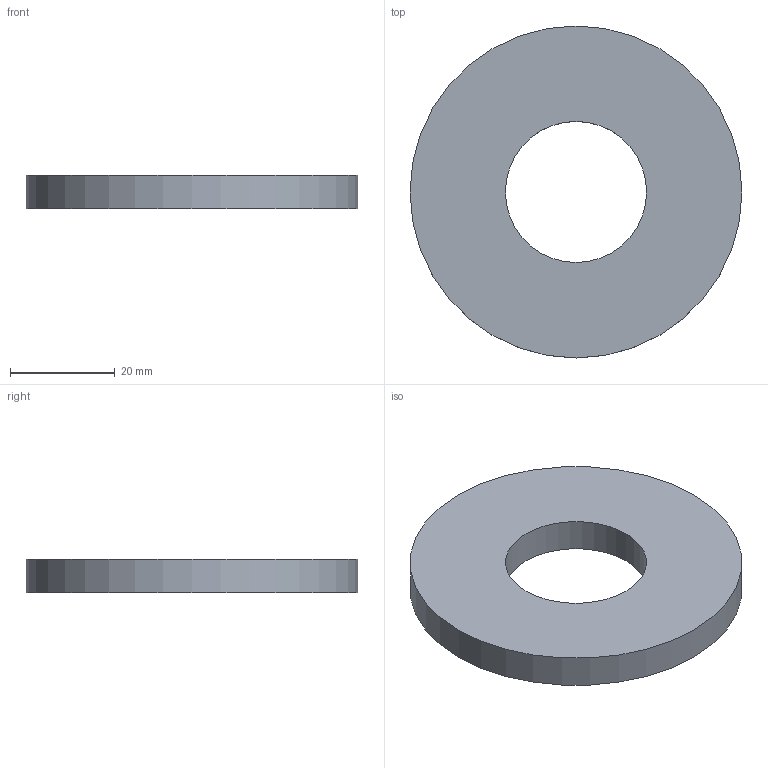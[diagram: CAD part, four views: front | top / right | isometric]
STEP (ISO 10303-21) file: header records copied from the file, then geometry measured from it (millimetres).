
FILE_DESCRIPTION(/* description */ (''),/* implementation_level */ '2;1');
FILE_NAME(/* name */ 'C:\001_Work\Designs\HLW\HLW-1.000.stp',/* time_stamp */ '2015-09-04T08:51:30-04:00',/* author */ ('rramoutar'),/* organization */ ('Mason Industries Inc.'),/* preprocessor_version */ 'ST-DEVELOPER v15.6',/* originating_system */ 'Autodesk Inventor 2015',/* authorisation */ '');
FILE_SCHEMA (('AUTOMOTIVE_DESIGN { 1 0 10303 214 3 1 1 }'));
Length unit declared in the file: inch
Products named in the file (1): HLW-1.000
Bounding box: 63.5 x 63.5 x 6.35 mm (x, y, z)
Volume: 16477.6 mm3; surface area: 6994.9 mm2
Topology: 1 solids, 1 shells, 4 faces, 6 edges, 4 vertices
Faces by surface type: cylinder 2, plane 2
Full cylindrical faces by diameter (mm): 26.987 x1, 63.5 x1
Entity records: 114 total; most frequent: DIRECTION 18, CARTESIAN_POINT 13, AXIS2_PLACEMENT_3D 9, EDGE_LOOP 8, ORIENTED_EDGE 8, FACE_BOUND 4, FACE_OUTER_BOUND 4, CIRCLE 4
